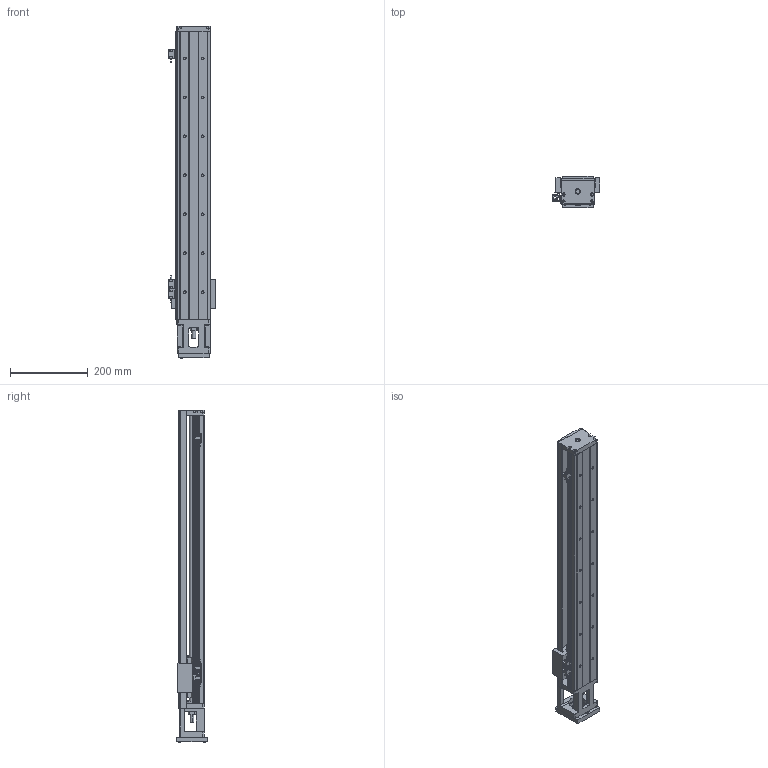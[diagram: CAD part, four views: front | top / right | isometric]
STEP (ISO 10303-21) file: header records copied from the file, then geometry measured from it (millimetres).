
FILE_DESCRIPTION (( 'STEP AP203' ), '1' );
FILE_NAME ('KH86D10C-740A1-F4CS2.STEP', '2024-01-06T06:42:01', ( '' ), ( '' ), 'SwSTEP 2.0', 'SolidWorks 2016', '' );
FILE_SCHEMA (( 'CONFIG_CONTROL_DESIGN' ));
Length unit declared in the file: millimetre
Products named in the file (48): KH86-F4; 囀鞠褒す埴芛蹟隊M3℅5; 囀鞠褒す埴芛蹟隊M4℅10; 囀鞠褒す埴芛蹟隊M3℅4; 嫖萇羲壽-L; KK60-08-01; 鞠褒蹟譫M3; 嫖萇羲壽-R; PM-Y45; ヶ盓釱; KH86-04-05-02; KH86-綴釱_KK86-05-01; KK86-蛌諉釱; 86賑輸; KH86D10C-740A1-F4CS2; KH86-01-XXX; KH86-A1
Assembly tree (29 placements, depth 3):
  囀鞠褒す埴芛蹟隊M3℅5
  囀鞠褒す埴芛蹟隊M4℅10
  囀鞠褒す埴芛蹟隊M3℅4
  囀鞠褒す埴芛蹟隊M4℅10
  囀鞠褒す埴芛蹟隊M3℅5
Bounding box: 121 x 80 x 852 mm (x, y, z)
Volume: 2145729.3 mm3; surface area: 598065.8 mm2
Topology: 22 solids, 67 shells, 1641 faces, 4192 edges, 2643 vertices
Faces by surface type: plane 718, cylinder 505, cone 319, bspline 99
Entity records: 41151 total; most frequent: CARTESIAN_POINT 10641, ORIENTED_EDGE 5461, DIRECTION 5284, EDGE_CURVE 2742, AXIS2_PLACEMENT_3D 1839, VERTEX_POINT 1796, LINE 1606, VECTOR 1606
